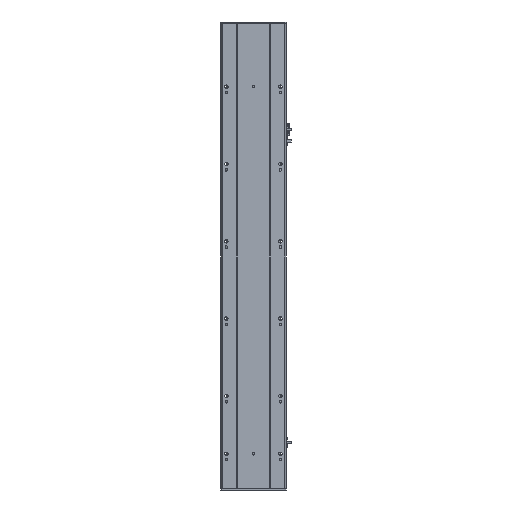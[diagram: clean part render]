
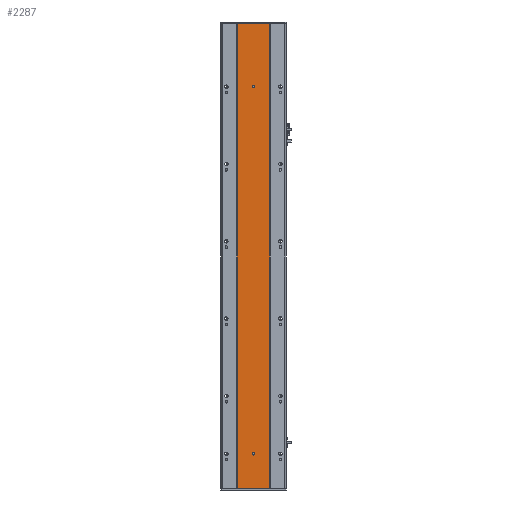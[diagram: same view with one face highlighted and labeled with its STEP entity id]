
A CAD part, front view. The second image highlights one B-rep face of the part: STEP entity #2287.
In plain terms, the highlighted planar face has unit normal (0, -1, 0).
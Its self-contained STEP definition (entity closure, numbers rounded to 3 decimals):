
#920 = DIRECTION ( 'NONE',  ( 0., 0., 1. ) ) ;
#1518 = CARTESIAN_POINT ( 'NONE',  ( 42.916, 2.57, 0. ) ) ;
#1554 = VECTOR ( 'NONE', #22365, 1000. ) ;
#1773 = VERTEX_POINT ( 'NONE', #10638 ) ;
#1781 = EDGE_CURVE ( 'NONE', #17302, #19649, #6155, .T. ) ;
#1808 = FACE_BOUND ( 'NONE', #10706, .T. ) ;
#2287 = ADVANCED_FACE ( 'NONE', ( #1808, #22674, #12297 ), #14327, .F. ) ;
#2424 = CARTESIAN_POINT ( 'NONE',  ( 126.916, 2.57, 0. ) ) ;
#2626 = CARTESIAN_POINT ( 'NONE',  ( 42.916, 2.57, 0. ) ) ;
#3043 = VERTEX_POINT ( 'NONE', #8746 ) ;
#3068 = LINE ( 'NONE', #16668, #13579 ) ;
#3071 = CARTESIAN_POINT ( 'NONE',  ( 85., 2.57, 1035.5 ) ) ;
#3110 = VERTEX_POINT ( 'NONE', #14933 ) ;
#3794 = ORIENTED_EDGE ( 'NONE', *, *, #18810, .T. ) ;
#3796 = CARTESIAN_POINT ( 'NONE',  ( 85., 2.57, 88.5 ) ) ;
#4708 = CARTESIAN_POINT ( 'NONE',  ( 42.916, 2.57, 1201. ) ) ;
#5020 = ORIENTED_EDGE ( 'NONE', *, *, #1781, .T. ) ;
#5691 = LINE ( 'NONE', #1518, #21366 ) ;
#5778 = DIRECTION ( 'NONE',  ( 0., 0., 1. ) ) ;
#5972 = CIRCLE ( 'NONE', #15409, 3. ) ;
#6155 = LINE ( 'NONE', #6767, #1554 ) ;
#6767 = CARTESIAN_POINT ( 'NONE',  ( 42.916, 2.57, 1201. ) ) ;
#7556 = CARTESIAN_POINT ( 'NONE',  ( 85., 2.57, 1038.5 ) ) ;
#7797 = DIRECTION ( 'NONE',  ( 0., 1., 0. ) ) ;
#8120 = EDGE_CURVE ( 'NONE', #3043, #19649, #9879, .T. ) ;
#8219 = EDGE_LOOP ( 'NONE', ( #24550, #12562 ) ) ;
#8483 = DIRECTION ( 'NONE',  ( 0., 0., 1. ) ) ;
#8720 = CARTESIAN_POINT ( 'NONE',  ( 85., 2.57, 1038.5 ) ) ;
#8746 = CARTESIAN_POINT ( 'NONE',  ( 42.916, 2.57, 0. ) ) ;
#9531 = DIRECTION ( 'NONE',  ( 0., 0., 1. ) ) ;
#9879 = LINE ( 'NONE', #2626, #19082 ) ;
#10361 = CARTESIAN_POINT ( 'NONE',  ( 42.916, 2.57, 0. ) ) ;
#10638 = CARTESIAN_POINT ( 'NONE',  ( 85., 2.57, 91.5 ) ) ;
#10678 = DIRECTION ( 'NONE',  ( 0., 0., 1. ) ) ;
#10706 = EDGE_LOOP ( 'NONE', ( #14428, #3794 ) ) ;
#11740 = AXIS2_PLACEMENT_3D ( 'NONE', #10361, #20234, #8483 ) ;
#12297 = FACE_OUTER_BOUND ( 'NONE', #12776, .T. ) ;
#12562 = ORIENTED_EDGE ( 'NONE', *, *, #20166, .T. ) ;
#12776 = EDGE_LOOP ( 'NONE', ( #5020, #22874, #15327, #13277 ) ) ;
#13277 = ORIENTED_EDGE ( 'NONE', *, *, #19702, .T. ) ;
#13339 = AXIS2_PLACEMENT_3D ( 'NONE', #3796, #17558, #5778 ) ;
#13579 = VECTOR ( 'NONE', #920, 1000. ) ;
#13725 = EDGE_CURVE ( 'NONE', #24185, #3043, #5691, .T. ) ;
#14327 = PLANE ( 'NONE',  #11740 ) ;
#14423 = DIRECTION ( 'NONE',  ( 0., 0., 1. ) ) ;
#14428 = ORIENTED_EDGE ( 'NONE', *, *, #25283, .T. ) ;
#14757 = CIRCLE ( 'NONE', #17429, 3. ) ;
#14933 = CARTESIAN_POINT ( 'NONE',  ( 85., 2.57, 1041.5 ) ) ;
#15327 = ORIENTED_EDGE ( 'NONE', *, *, #13725, .F. ) ;
#15409 = AXIS2_PLACEMENT_3D ( 'NONE', #19549, #7797, #21523 ) ;
#15452 = AXIS2_PLACEMENT_3D ( 'NONE', #8720, #22402, #10678 ) ;
#16254 = CARTESIAN_POINT ( 'NONE',  ( 85., 2.57, 85.5 ) ) ;
#16653 = CIRCLE ( 'NONE', #15452, 3. ) ;
#16668 = CARTESIAN_POINT ( 'NONE',  ( 126.916, 2.57, 0. ) ) ;
#16970 = CIRCLE ( 'NONE', #13339, 3. ) ;
#17302 = VERTEX_POINT ( 'NONE', #20537 ) ;
#17429 = AXIS2_PLACEMENT_3D ( 'NONE', #7556, #21295, #9531 ) ;
#17558 = DIRECTION ( 'NONE',  ( 0., 1., 0. ) ) ;
#18810 = EDGE_CURVE ( 'NONE', #1773, #24861, #16970, .T. ) ;
#19075 = EDGE_CURVE ( 'NONE', #22742, #3110, #16653, .T. ) ;
#19082 = VECTOR ( 'NONE', #14423, 1000. ) ;
#19549 = CARTESIAN_POINT ( 'NONE',  ( 85., 2.57, 88.5 ) ) ;
#19649 = VERTEX_POINT ( 'NONE', #4708 ) ;
#19702 = EDGE_CURVE ( 'NONE', #24185, #17302, #3068, .T. ) ;
#20166 = EDGE_CURVE ( 'NONE', #3110, #22742, #14757, .T. ) ;
#20234 = DIRECTION ( 'NONE',  ( 0., 1., 0. ) ) ;
#20537 = CARTESIAN_POINT ( 'NONE',  ( 126.916, 2.57, 1201. ) ) ;
#21295 = DIRECTION ( 'NONE',  ( 0., 1., 0. ) ) ;
#21366 = VECTOR ( 'NONE', #22952, 1000. ) ;
#21523 = DIRECTION ( 'NONE',  ( 0., 0., 1. ) ) ;
#22365 = DIRECTION ( 'NONE',  ( -1., 0., 0. ) ) ;
#22402 = DIRECTION ( 'NONE',  ( 0., 1., 0. ) ) ;
#22674 = FACE_BOUND ( 'NONE', #8219, .T. ) ;
#22742 = VERTEX_POINT ( 'NONE', #3071 ) ;
#22874 = ORIENTED_EDGE ( 'NONE', *, *, #8120, .F. ) ;
#22952 = DIRECTION ( 'NONE',  ( -1., 0., 0. ) ) ;
#24185 = VERTEX_POINT ( 'NONE', #2424 ) ;
#24550 = ORIENTED_EDGE ( 'NONE', *, *, #19075, .T. ) ;
#24861 = VERTEX_POINT ( 'NONE', #16254 ) ;
#25283 = EDGE_CURVE ( 'NONE', #24861, #1773, #5972, .T. ) ;
